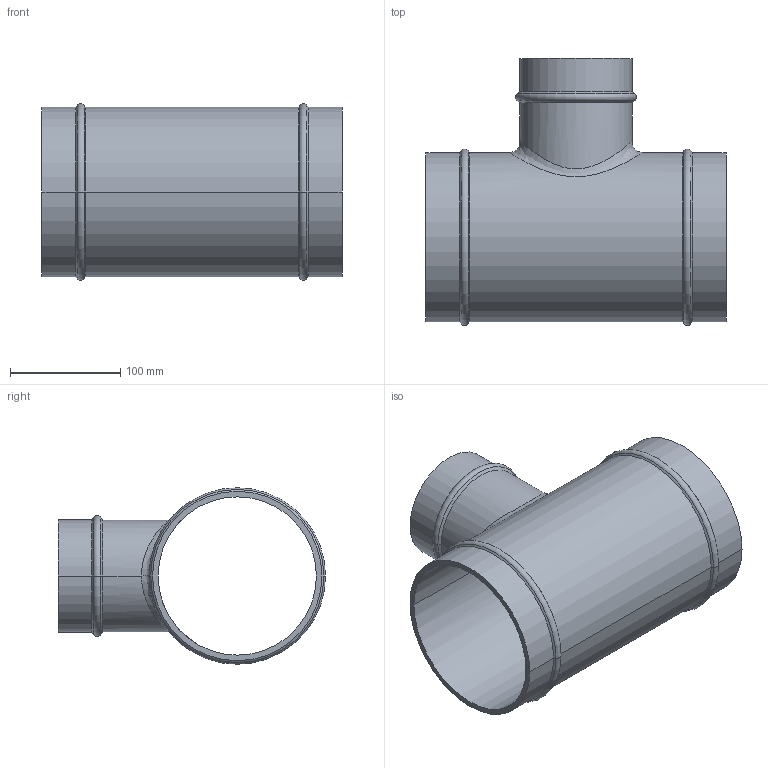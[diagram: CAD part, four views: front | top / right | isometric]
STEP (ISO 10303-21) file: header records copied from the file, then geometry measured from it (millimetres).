
FILE_DESCRIPTION((''),'2;1');
FILE_NAME('2014980700','2017-05-10T',('Administrator'),(''),'PRO/ENGINEER BY PARAMETRIC TECHNOLOGY CORPORATION, 2009360','PRO/ENGINEER BY PARAMETRIC TECHNOLOGY CORPORATION, 2009360','');
FILE_SCHEMA(('AUTOMOTIVE_DESIGN_CC2 { 1 2 10303 214 -1 1 5 2 }'));
Length unit declared in the file: millimetre
Products named in the file (1): 2014980700
Bounding box: 272 x 241.99 x 159.97 mm (x, y, z)
Volume: 715324 mm3; surface area: 306448.9 mm2
Topology: 1 solids, 1 shells, 37 faces, 79 edges, 44 vertices
Faces by surface type: cylinder 14, cone 12, torus 6, plane 3, bspline 2
Entity records: 1622 total; most frequent: CARTESIAN_POINT 539, DIRECTION 186, ORIENTED_EDGE 158, PRESENTATION_STYLE_ASSIGNMENT 80, STYLED_ITEM 80, AXIS2_PLACEMENT_3D 79, CURVE_STYLE 79, EDGE_CURVE 79
